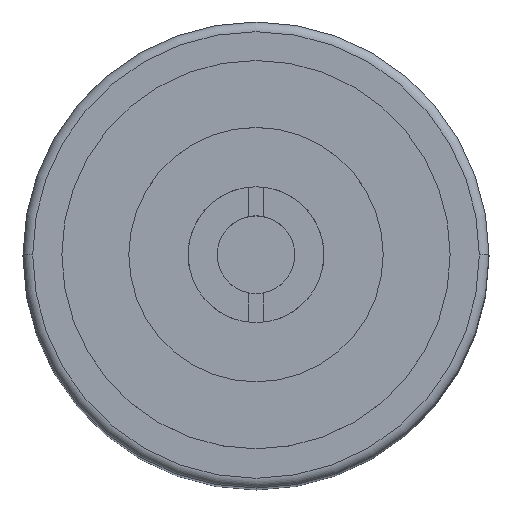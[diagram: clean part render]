
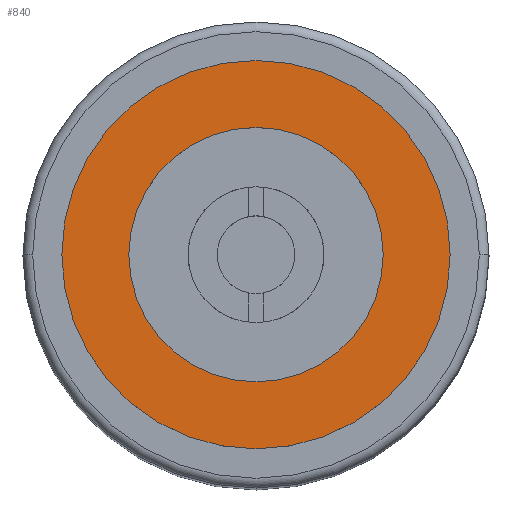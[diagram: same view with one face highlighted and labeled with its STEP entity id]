
A CAD part, top view. The second image highlights one B-rep face of the part: STEP entity #840.
In plain terms, the highlighted planar face has unit normal (0, 0, 1).
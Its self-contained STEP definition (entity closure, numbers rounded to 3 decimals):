
#111 = DIRECTION ( 'NONE',  ( 1., 0., 0. ) ) ;
#138 = EDGE_LOOP ( 'NONE', ( #1613, #1159 ) ) ;
#185 = CARTESIAN_POINT ( 'NONE',  ( 0., 0., 112.479 ) ) ;
#202 = AXIS2_PLACEMENT_3D ( 'NONE', #185, #1126, #1234 ) ;
#206 = VERTEX_POINT ( 'NONE', #1006 ) ;
#212 = CARTESIAN_POINT ( 'NONE',  ( -20., 0., 112.479 ) ) ;
#267 = ORIENTED_EDGE ( 'NONE', *, *, #1326, .F. ) ;
#328 = DIRECTION ( 'NONE',  ( 0., 0., 1. ) ) ;
#339 = DIRECTION ( 'NONE',  ( 0., 0., -1. ) ) ;
#350 = ORIENTED_EDGE ( 'NONE', *, *, #1337, .F. ) ;
#374 = FACE_BOUND ( 'NONE', #138, .T. ) ;
#381 = DIRECTION ( 'NONE',  ( 0., 0., 1. ) ) ;
#413 = CARTESIAN_POINT ( 'NONE',  ( -13.1, 0., 112.479 ) ) ;
#419 = AXIS2_PLACEMENT_3D ( 'NONE', #757, #1545, #111 ) ;
#426 = VERTEX_POINT ( 'NONE', #413 ) ;
#611 = CIRCLE ( 'NONE', #419, 13.1 ) ;
#613 = AXIS2_PLACEMENT_3D ( 'NONE', #1101, #339, #1136 ) ;
#695 = AXIS2_PLACEMENT_3D ( 'NONE', #1425, #381, #1011 ) ;
#757 = CARTESIAN_POINT ( 'NONE',  ( 0., 0., 112.479 ) ) ;
#830 = EDGE_CURVE ( 'NONE', #1632, #426, #611, .T. ) ;
#837 = AXIS2_PLACEMENT_3D ( 'NONE', #1540, #328, #1238 ) ;
#840 = ADVANCED_FACE ( 'NONE', ( #374, #1310 ), #1693, .T. ) ;
#857 = CIRCLE ( 'NONE', #837, 13.1 ) ;
#1006 = CARTESIAN_POINT ( 'NONE',  ( 20., 0., 112.479 ) ) ;
#1011 = DIRECTION ( 'NONE',  ( 1., 0., 0. ) ) ;
#1101 = CARTESIAN_POINT ( 'NONE',  ( 0., 0., 112.479 ) ) ;
#1126 = DIRECTION ( 'NONE',  ( 0., 0., -1. ) ) ;
#1136 = DIRECTION ( 'NONE',  ( -1., 0., 0. ) ) ;
#1139 = CIRCLE ( 'NONE', #613, 20. ) ;
#1159 = ORIENTED_EDGE ( 'NONE', *, *, #1362, .F. ) ;
#1234 = DIRECTION ( 'NONE',  ( -1., 0., 0. ) ) ;
#1238 = DIRECTION ( 'NONE',  ( 1., 0., 0. ) ) ;
#1290 = EDGE_LOOP ( 'NONE', ( #267, #350 ) ) ;
#1310 = FACE_OUTER_BOUND ( 'NONE', #1290, .T. ) ;
#1326 = EDGE_CURVE ( 'NONE', #1375, #206, #1622, .T. ) ;
#1334 = CARTESIAN_POINT ( 'NONE',  ( 13.1, 0., 112.479 ) ) ;
#1337 = EDGE_CURVE ( 'NONE', #206, #1375, #1139, .T. ) ;
#1362 = EDGE_CURVE ( 'NONE', #426, #1632, #857, .T. ) ;
#1375 = VERTEX_POINT ( 'NONE', #212 ) ;
#1425 = CARTESIAN_POINT ( 'NONE',  ( 0., 0., 112.479 ) ) ;
#1540 = CARTESIAN_POINT ( 'NONE',  ( 0., 0., 112.479 ) ) ;
#1545 = DIRECTION ( 'NONE',  ( 0., 0., 1. ) ) ;
#1613 = ORIENTED_EDGE ( 'NONE', *, *, #830, .F. ) ;
#1622 = CIRCLE ( 'NONE', #202, 20. ) ;
#1632 = VERTEX_POINT ( 'NONE', #1334 ) ;
#1693 = PLANE ( 'NONE',  #695 ) ;
